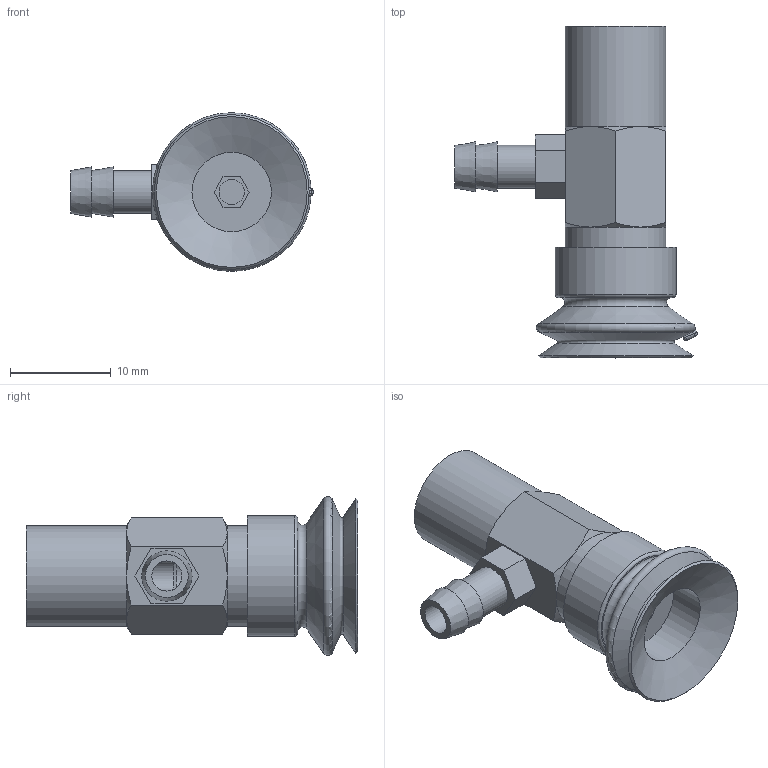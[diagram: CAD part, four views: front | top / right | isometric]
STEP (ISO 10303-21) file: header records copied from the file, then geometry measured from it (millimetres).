
FILE_DESCRIPTION(('STEP AP203'),'1');
FILE_NAME('.stp','2025-04-23T02:37:22',(' '),(' '),'Spatial InterOp 3D',' ',' ');
FILE_SCHEMA(('CONFIG_CONTROL_DESIGN'));
Length unit declared in the file: millimetre
Products named in the file (4): BBPJYK-15-※; Adapter-15-PJ; PJYK-15; BPJG-15-※
Assembly tree (3 placements, depth 2):
  BBPJYK-15-※
    Adapter-15-PJ
    PJYK-15
    BPJG-15-※
Bounding box: 24.1 x 33 x 15.78 mm (x, y, z)
Volume: 2760.9 mm3; surface area: 2812.6 mm2
Topology: 3 solids, 3 shells, 100 faces, 228 edges, 139 vertices
Faces by surface type: plane 37, cone 30, cylinder 14, torus 9, bspline 6, sphere 4
Full cylindrical faces by diameter (mm): 2.5 x1, 3 x2, 3.242 x1, 4.134 x1, 4.26 x1, 4.6 x1, 5 x1, 7.9 x1, 8 x1, 10 x2, 12 x1
Entity records: 2898 total; most frequent: CARTESIAN_POINT 695, DIRECTION 418, ORIENTED_EDGE 368, EDGE_CURVE 184, AXIS2_PLACEMENT_3D 179, EDGE_LOOP 143, VERTEX_POINT 128, FACE_OUTER_BOUND 119
